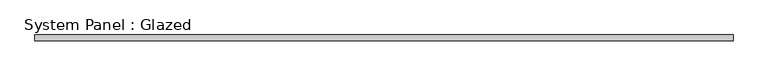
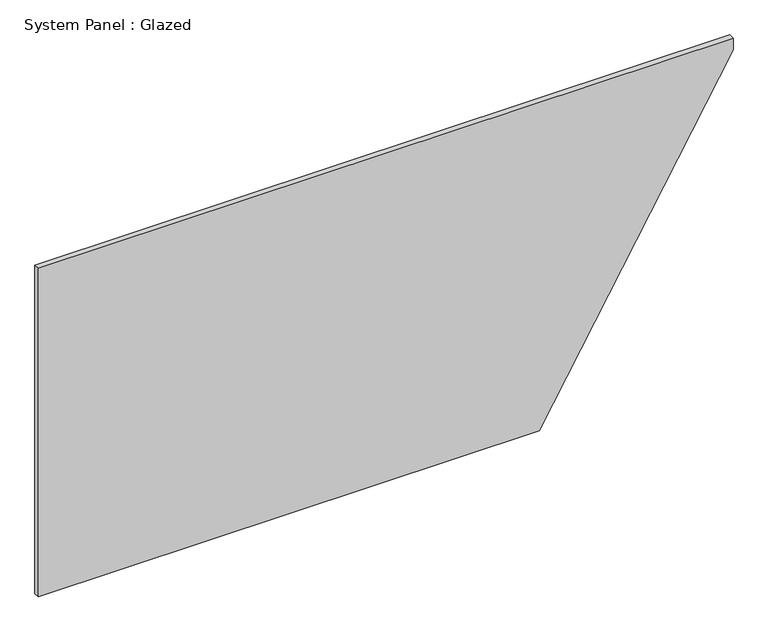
"""IFC4 building model written with IfcOpenShell, lengths in millimetres: plate geometry, System Panel : Glazed."""

from ifc_helpers import new_model, si_unit, frame, origin, place, context, project, spatial, polyline, outline, extrude, source, transform, mapped, element, save


def system_panel_glazed_0ee02577(model_context):
    return source(origin(), model_context, "Body", "SweptSolid", [
        extrude(outline(polyline([(0.0, -1524.0), (0.0, 674.4575658), (1471.4506592, 1524.0), (1524.0, 1524.0), (1524.0, -1524.0), (0.0, -1524.0)])), frame((0.0, 19.05, 0.0), z_axis=(0.0, 1.0, 0.0), x_axis=(0.0, 0.0, 1.0)), (0.0, 0.0, 1.0), 25.4),
    ])


if __name__ == "__main__":
    model = new_model("IFC4")
    model_context = context("Model", 3, world=origin())
    ifc_project = project(units=[si_unit("LENGTHUNIT", "METRE", prefix="MILLI")], contexts=[model_context])
    site = spatial("IfcSite", under=ifc_project)
    building = spatial("IfcBuilding", under=site)
    placement = place(None, origin())
    system_panel_glazed_shape = system_panel_glazed_0ee02577(model_context)
    element("IfcPlate", 1, ObjectType="System Panel : Glazed", at=placement, inside=building, context=model_context, shape_type="MappedRepresentation", body=[
        mapped(system_panel_glazed_shape, transform((0.0, 0.0, 0.0), x_axis=(1.0, 0.0, 0.0), y_axis=(0.0, 1.0, 0.0), z_axis=(0.0, 0.0, 1.0))),
    ])
    save(model, "model.ifc")
